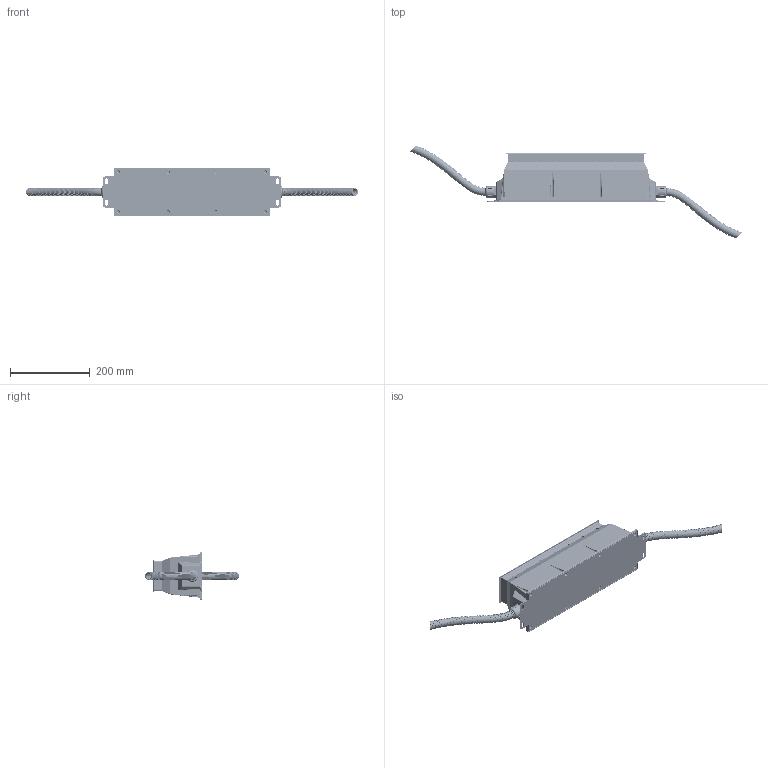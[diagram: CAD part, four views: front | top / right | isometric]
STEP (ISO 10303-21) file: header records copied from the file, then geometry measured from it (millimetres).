
FILE_DESCRIPTION((''),'2;1');
FILE_NAME('4QA-06_ASM','2023-10-16T',('Administrator'),(''),'CREO PARAMETRIC BY PTC INC, 2015200','CREO PARAMETRIC BY PTC INC, 2015200','');
FILE_SCHEMA(('CONFIG_CONTROL_DESIGN'));
Products named in the file (30): MIANGAI_178; CHUGUANGZHAO_173; 4P-1_ASM_168_ASM; HOUSING-DIE_187; SANREKUAI_162; ASM0001_ASM; PACKING-SILICON_125; DIAN_68; PG9_2; ZHIZI; MIANGAI-2; M4-6; WENKONGQI; M4-24; ____1_D1BL2014_21; 2FL-06_21; B27A_21; 4QA-TUOJINGZHIJA_ASM; JIEGUANGMAO; 4Q-A-2020-10-22; 4QA-BIBAN; _S__25______ANY; _S__29______ANY; _S__27______ANY; _S__26______ANY; PRODUCT_62766_ANY_ASM; ____-2020-10-14_ANY; 4QA-06-FSQ; PG11LUOMU; 4QA-06_ASM
Assembly tree (59 placements, depth 3):
  4QA-06_ASM
    4P-1_ASM_168_ASM
      MIANGAI_178
      CHUGUANGZHAO_173
    HOUSING-DIE_187
    ASM0001_ASM
      SANREKUAI_162
    PACKING-SILICON_125
    DIAN_68
    PG9_2
    ZHIZI  x12
    MIANGAI-2
    M4-6  x12
    WENKONGQI
    M4-24  x2
    ____1_D1BL2014_21
    4QA-TUOJINGZHIJA_ASM
      2FL-06_21
      B27A_21  x6
    JIEGUANGMAO
    4Q-A-2020-10-22
    4QA-BIBAN
    PRODUCT_62766_ANY_ASM  x2
      _S__25______ANY
      _S__29______ANY
      _S__27______ANY
      _S__26______ANY
    ____-2020-10-14_ANY  x2
    4QA-06-FSQ
    PG11LUOMU
Bounding box: 834.19 x 235.4 x 122 mm (x, y, z)
Volume: 881022.6 mm3; surface area: 829126.1 mm2
Topology: 58 solids, 58 shells, 5619 faces, 14994 edges, 9836 vertices
Faces by surface type: plane 2881, cylinder 1813, torus 342, cone 341, bspline 154, sphere 80, revolution 8
Entity records: 165282 total; most frequent: CARTESIAN_POINT 48733, ORIENTED_EDGE 25010, DIRECTION 23416, EDGE_CURVE 12505, AXIS2_PLACEMENT_3D 8321, VERTEX_POINT 8249, VECTOR 6766, LINE 6766
